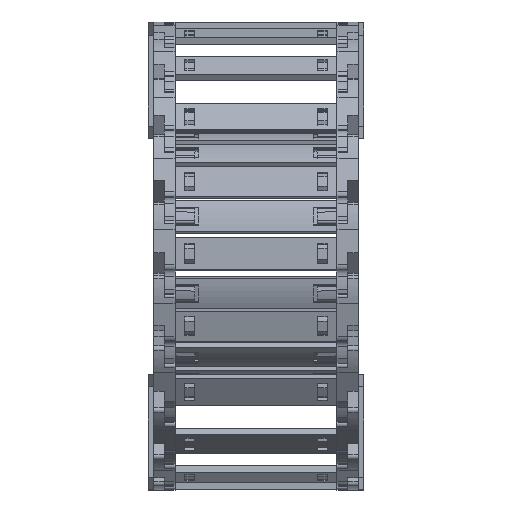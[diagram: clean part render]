
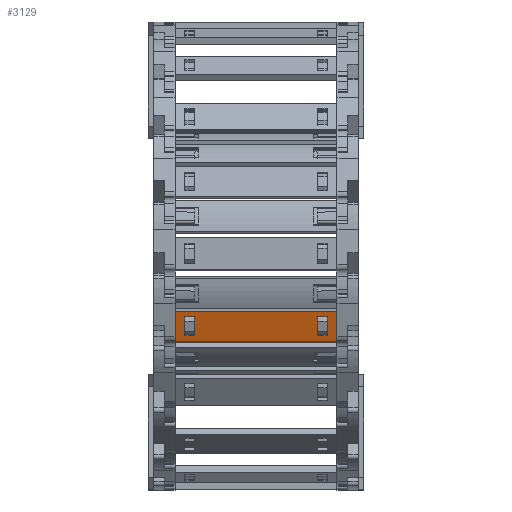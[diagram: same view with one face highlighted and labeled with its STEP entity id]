
A CAD part, top view. The second image highlights one B-rep face of the part: STEP entity #3129.
In plain terms, the highlighted planar face has unit normal (0, -0.302, 0.953) as drawn and (0, 0, -1) by its records, which use the part's own axes.
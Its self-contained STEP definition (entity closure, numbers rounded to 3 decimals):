
#2609=DIRECTION('',(-1.,0.,0.));
#2610=VECTOR('',#2609,18.);
#2611=CARTESIAN_POINT('',(9.,-65.75,0.));
#2612=LINE('',#2611,#2610);
#2647=DIRECTION('',(0.,1.,0.));
#2648=VECTOR('',#2647,5.56);
#2649=CARTESIAN_POINT('',(-5.55,14.2,0.));
#2650=LINE('',#2649,#2648);
#2651=DIRECTION('',(1.,0.,0.));
#2652=VECTOR('',#2651,11.1);
#2653=CARTESIAN_POINT('',(-5.55,19.76,0.));
#2654=LINE('',#2653,#2652);
#2655=DIRECTION('',(0.,-1.,0.));
#2656=VECTOR('',#2655,5.56);
#2657=CARTESIAN_POINT('',(5.55,19.76,0.));
#2658=LINE('',#2657,#2656);
#2659=DIRECTION('',(-1.,0.,0.));
#2660=VECTOR('',#2659,11.1);
#2661=CARTESIAN_POINT('',(5.55,14.2,0.));
#2662=LINE('',#2661,#2660);
#2667=DIRECTION('',(1.,0.,0.));
#2668=VECTOR('',#2667,18.);
#2669=CARTESIAN_POINT('',(-9.,25.25,0.));
#2670=LINE('',#2669,#2668);
#2701=DIRECTION('',(0.,1.,0.));
#2702=VECTOR('',#2701,91.);
#2703=CARTESIAN_POINT('',(-9.,-65.75,0.));
#2704=LINE('',#2703,#2702);
#2830=DIRECTION('',(0.,-1.,0.));
#2831=VECTOR('',#2830,91.);
#2832=CARTESIAN_POINT('',(9.,25.25,0.));
#2833=LINE('',#2832,#2831);
#2895=DIRECTION('',(0.,-1.,0.));
#2896=VECTOR('',#2895,5.56);
#2897=CARTESIAN_POINT('',(-5.55,-54.7,0.));
#2898=LINE('',#2897,#2896);
#2907=DIRECTION('',(0.,1.,0.));
#2908=VECTOR('',#2907,5.56);
#2909=CARTESIAN_POINT('',(5.55,-60.26,0.));
#2910=LINE('',#2909,#2908);
#2919=DIRECTION('',(1.,0.,0.));
#2920=VECTOR('',#2919,11.1);
#2921=CARTESIAN_POINT('',(-5.55,-60.26,0.));
#2922=LINE('',#2921,#2920);
#2931=DIRECTION('',(-1.,0.,0.));
#2932=VECTOR('',#2931,11.1);
#2933=CARTESIAN_POINT('',(5.55,-54.7,0.));
#2934=LINE('',#2933,#2932);
#2983=CARTESIAN_POINT('',(9.,-65.75,0.));
#2984=CARTESIAN_POINT('',(-9.,-65.75,0.));
#2985=VERTEX_POINT('',#2983);
#2986=VERTEX_POINT('',#2984);
#3007=CARTESIAN_POINT('',(-5.55,-54.7,0.));
#3008=CARTESIAN_POINT('',(-5.55,-60.26,0.));
#3009=VERTEX_POINT('',#3007);
#3010=VERTEX_POINT('',#3008);
#3011=CARTESIAN_POINT('',(5.55,-54.7,0.));
#3012=VERTEX_POINT('',#3011);
#3013=CARTESIAN_POINT('',(5.55,-60.26,0.));
#3014=VERTEX_POINT('',#3013);
#3039=CARTESIAN_POINT('',(-9.,25.25,0.));
#3040=CARTESIAN_POINT('',(9.,25.25,0.));
#3041=VERTEX_POINT('',#3039);
#3042=VERTEX_POINT('',#3040);
#3043=CARTESIAN_POINT('',(-5.55,14.2,0.));
#3044=CARTESIAN_POINT('',(-5.55,19.76,0.));
#3045=VERTEX_POINT('',#3043);
#3046=VERTEX_POINT('',#3044);
#3047=CARTESIAN_POINT('',(5.55,19.76,0.));
#3048=VERTEX_POINT('',#3047);
#3049=CARTESIAN_POINT('',(5.55,14.2,0.));
#3050=VERTEX_POINT('',#3049);
#3095=CARTESIAN_POINT('',(8.,-65.75,0.));
#3096=DIRECTION('',(0.,0.,-1.));
#3097=DIRECTION('',(-1.,0.,0.));
#3098=AXIS2_PLACEMENT_3D('',#3095,#3096,#3097);
#3099=PLANE('',#3098);
#3101=ORIENTED_EDGE('',*,*,#3100,.F.);
#3103=ORIENTED_EDGE('',*,*,#3102,.F.);
#3104=ORIENTED_EDGE('',*,*,#3068,.F.);
#3106=ORIENTED_EDGE('',*,*,#3105,.F.);
#3107=EDGE_LOOP('',(#3101,#3103,#3104,#3106));
#3108=FACE_OUTER_BOUND('',#3107,.F.);
#3110=ORIENTED_EDGE('',*,*,#3109,.T.);
#3112=ORIENTED_EDGE('',*,*,#3111,.T.);
#3114=ORIENTED_EDGE('',*,*,#3113,.T.);
#3116=ORIENTED_EDGE('',*,*,#3115,.T.);
#3117=EDGE_LOOP('',(#3110,#3112,#3114,#3116));
#3118=FACE_BOUND('',#3117,.F.);
#3120=ORIENTED_EDGE('',*,*,#3119,.F.);
#3122=ORIENTED_EDGE('',*,*,#3121,.F.);
#3124=ORIENTED_EDGE('',*,*,#3123,.F.);
#3126=ORIENTED_EDGE('',*,*,#3125,.F.);
#3127=EDGE_LOOP('',(#3120,#3122,#3124,#3126));
#3128=FACE_BOUND('',#3127,.F.);
#3129=ADVANCED_FACE('',(#3108,#3118,#3128),#3099,.T.);
#3068=EDGE_CURVE('',#2985,#2986,#2612,.T.);
#3100=EDGE_CURVE('',#3041,#3042,#2670,.T.);
#3102=EDGE_CURVE('',#2986,#3041,#2704,.T.);
#3105=EDGE_CURVE('',#3042,#2985,#2833,.T.);
#3109=EDGE_CURVE('',#3045,#3046,#2650,.T.);
#3111=EDGE_CURVE('',#3046,#3048,#2654,.T.);
#3113=EDGE_CURVE('',#3048,#3050,#2658,.T.);
#3115=EDGE_CURVE('',#3050,#3045,#2662,.T.);
#3119=EDGE_CURVE('',#3009,#3010,#2898,.T.);
#3121=EDGE_CURVE('',#3012,#3009,#2934,.T.);
#3123=EDGE_CURVE('',#3014,#3012,#2910,.T.);
#3125=EDGE_CURVE('',#3010,#3014,#2922,.T.);
